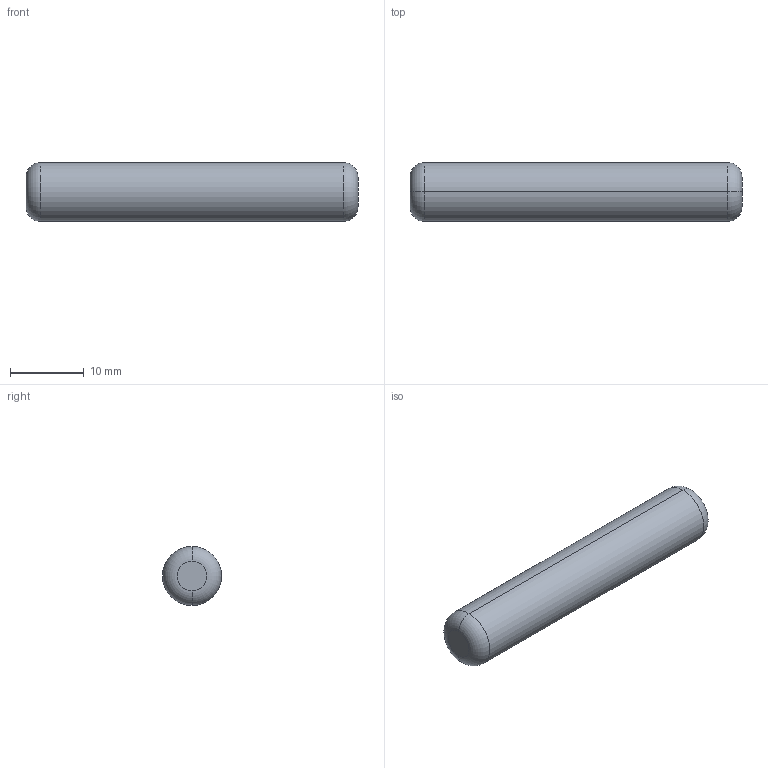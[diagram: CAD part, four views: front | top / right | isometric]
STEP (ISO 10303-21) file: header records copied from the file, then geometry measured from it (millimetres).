
FILE_DESCRIPTION (( 'STEP AP214' ), '1' );
FILE_NAME ('PAS-8x45.STEP', '2020-06-22T11:27:16', ( 'August' ), ( '' ), 'SwSTEP 2.0', 'SolidWorks 2018', '' );
FILE_SCHEMA (( 'AUTOMOTIVE_DESIGN' ));
Length unit declared in the file: millimetre
Products named in the file (1): PAS-8x45
Bounding box: 45 x 8 x 8 mm (x, y, z)
Volume: 2223.6 mm3; surface area: 1184.8 mm2
Topology: 1 solids, 1 shells, 8 faces, 14 edges, 8 vertices
Faces by surface type: torus 4, cylinder 2, plane 2
Entity records: 232 total; most frequent: DIRECTION 44, CARTESIAN_POINT 31, ORIENTED_EDGE 28, AXIS2_PLACEMENT_3D 21, EDGE_CURVE 14, CIRCLE 12, ADVANCED_FACE 8, FACE_OUTER_BOUND 8
